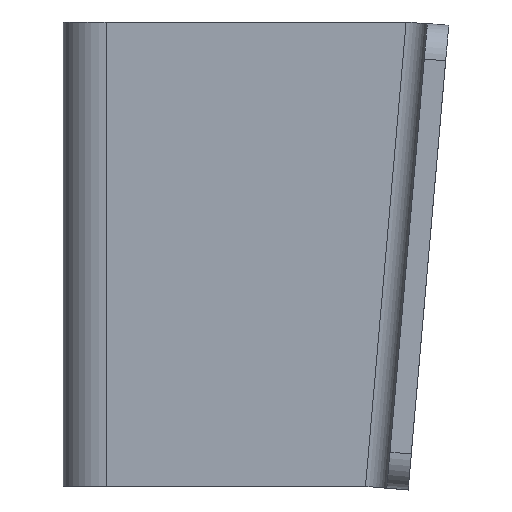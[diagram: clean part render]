
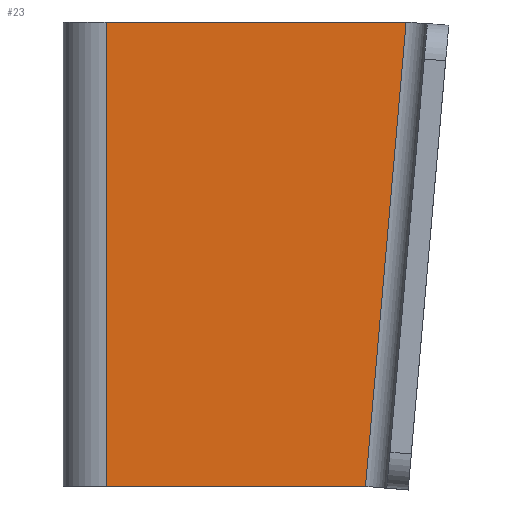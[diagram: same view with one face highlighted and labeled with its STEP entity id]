
A CAD part, top view. The second image highlights one B-rep face of the part: STEP entity #23.
In plain terms, the highlighted planar face has unit normal (0, 0, 1).
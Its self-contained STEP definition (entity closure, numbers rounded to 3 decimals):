
#13 = EDGE_LOOP ( 'NONE', ( #865, #974, #750, #221 ) ) ;
#23 = ADVANCED_FACE ( 'NONE', ( #811 ), #656, .F. ) ;
#30 = CARTESIAN_POINT ( 'NONE',  ( 0., 32.5, 0. ) ) ;
#37 = LINE ( 'NONE', #188, #832 ) ;
#67 = DIRECTION ( 'NONE',  ( 0.087, 0.996, 0. ) ) ;
#68 = CARTESIAN_POINT ( 'NONE',  ( 42., 32.5, 0. ) ) ;
#75 = VECTOR ( 'NONE', #986, 1000. ) ;
#119 = VERTEX_POINT ( 'NONE', #534 ) ;
#135 = AXIS2_PLACEMENT_3D ( 'NONE', #486, #400, #354 ) ;
#144 = CARTESIAN_POINT ( 'NONE',  ( 0., -32.5, 0. ) ) ;
#174 = EDGE_CURVE ( 'NONE', #988, #119, #771, .T. ) ;
#188 = CARTESIAN_POINT ( 'NONE',  ( 0., -32.5, 0. ) ) ;
#221 = ORIENTED_EDGE ( 'NONE', *, *, #435, .T. ) ;
#250 = VECTOR ( 'NONE', #935, 1000. ) ;
#354 = DIRECTION ( 'NONE',  ( -1., 0., 0. ) ) ;
#400 = DIRECTION ( 'NONE',  ( 0., 0., -1. ) ) ;
#435 = EDGE_CURVE ( 'NONE', #652, #988, #37, .T. ) ;
#486 = CARTESIAN_POINT ( 'NONE',  ( 0., 0., 0. ) ) ;
#497 = VECTOR ( 'NONE', #67, 1000. ) ;
#534 = CARTESIAN_POINT ( 'NONE',  ( 36.313, -32.5, 0. ) ) ;
#652 = VERTEX_POINT ( 'NONE', #884 ) ;
#656 = PLANE ( 'NONE',  #135 ) ;
#698 = VERTEX_POINT ( 'NONE', #68 ) ;
#746 = LINE ( 'NONE', #30, #75 ) ;
#750 = ORIENTED_EDGE ( 'NONE', *, *, #818, .T. ) ;
#771 = LINE ( 'NONE', #1022, #250 ) ;
#785 = CARTESIAN_POINT ( 'NONE',  ( 42., 32.5, 0. ) ) ;
#811 = FACE_OUTER_BOUND ( 'NONE', #13, .T. ) ;
#818 = EDGE_CURVE ( 'NONE', #698, #652, #746, .T. ) ;
#832 = VECTOR ( 'NONE', #983, 1000. ) ;
#865 = ORIENTED_EDGE ( 'NONE', *, *, #174, .T. ) ;
#872 = LINE ( 'NONE', #785, #497 ) ;
#884 = CARTESIAN_POINT ( 'NONE',  ( 0., 32.5, 0. ) ) ;
#935 = DIRECTION ( 'NONE',  ( 1., 0., 0. ) ) ;
#961 = EDGE_CURVE ( 'NONE', #119, #698, #872, .T. ) ;
#974 = ORIENTED_EDGE ( 'NONE', *, *, #961, .T. ) ;
#983 = DIRECTION ( 'NONE',  ( 0., -1., 0. ) ) ;
#986 = DIRECTION ( 'NONE',  ( -1., 0., 0. ) ) ;
#988 = VERTEX_POINT ( 'NONE', #144 ) ;
#1022 = CARTESIAN_POINT ( 'NONE',  ( 36.313, -32.5, 0. ) ) ;
